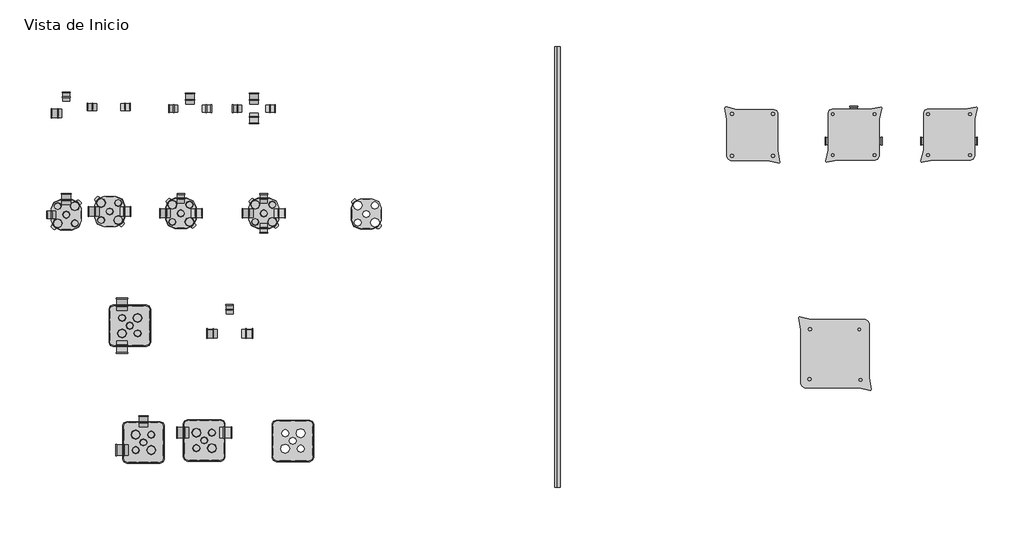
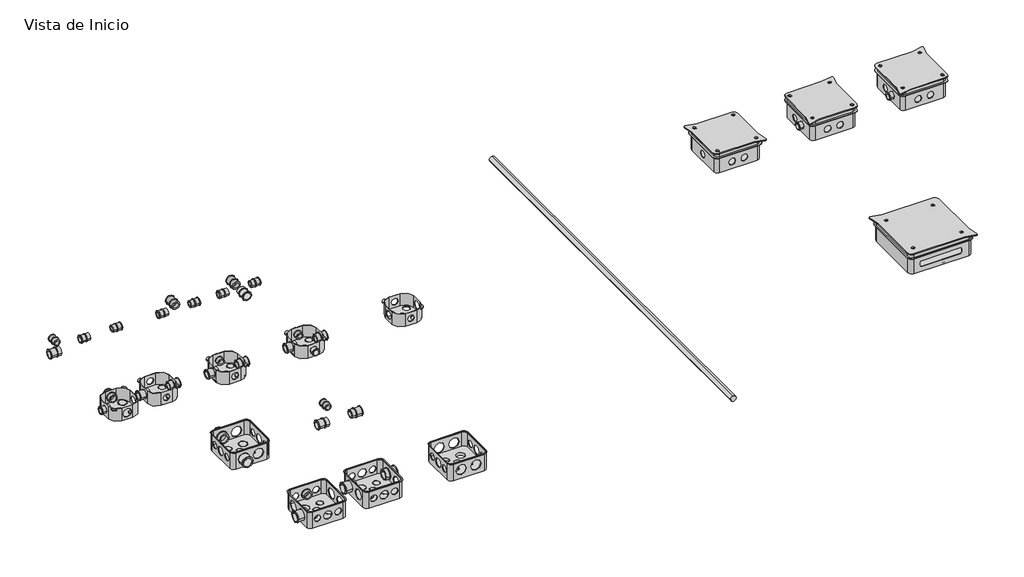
# One storey, incomplete: 49 cable carrier fittings, 1 cable carrier segment.
"""IFC4 building model written with IfcOpenShell, lengths in millimetres."""

from ifc_helpers import new_model, si_unit, point, frame, frame_2d, origin, place, context, project, spatial, circle_curve, trimmed, segment, composite_curve, outline, extrude, transform, mapped, element, save
from components import var_64fc13f4, var_9453f919, var_3e088505, var_25dc7d8c, var_ab9e230f, var_d9d88811, var_9fea2db4, var_a69d591e, var_c12a9b82

model = new_model("IFC4")

# Units and contexts
model_context = context("Model", 3, world=origin())
ifc_project = project(units=[si_unit("LENGTHUNIT", "METRE", prefix="MILLI")], contexts=[model_context])

# Site, building, storey
site = spatial("IfcSite", under=ifc_project)
building = spatial("IfcBuilding", under=site)
storey = spatial("IfcBuildingStorey", under=building, Name="Vista de Inicio", Elevation=0.0)

# Cable carrier fittings
placement = place(None, origin())
var_shape = var_64fc13f4(model_context)
element("IfcCableCarrierFitting", 1, ObjectType="PlastigamaWavin_Unionesdetubo_ConduitZNoUsarConector : Var.", at=placement, inside=storey, context=model_context, shape_type="MappedRepresentation", body=[
    mapped(var_shape, transform((1635.2131716, 3220.6588006, 0.0), x_axis=(0.0, -1.0, 0.0), y_axis=(1.0, 0.0, 0.0), z_axis=(0.0, 0.0, 1.0))),
])
element("IfcCableCarrierFitting", 2, ObjectType="PlastigamaWavin_Unionesdetubo_ConduitZNoUsarConector : Var.", at=placement, inside=storey, context=model_context, shape_type="MappedRepresentation", body=[
    mapped(var_shape, transform((1227.6395782, 3179.4088006, 0.0), x_axis=(1.0, 0.0, 0.0), y_axis=(0.0, 1.0, 0.0), z_axis=(0.0, 0.0, 1.0))),
])
element("IfcCableCarrierFitting", 3, ObjectType="PlastigamaWavin_Unionesdetubo_ConduitZNoUsarConector : Var.", at=placement, inside=storey, context=model_context, shape_type="MappedRepresentation", body=[
    mapped(var_shape, transform((1491.6702869, 2225.2691499, 0.0), x_axis=(0.0, -1.0, 0.0), y_axis=(1.0, 0.0, 0.0), z_axis=(0.0, 0.0, 1.0))),
])
element("IfcCableCarrierFitting", 4, ObjectType="PlastigamaWavin_Unionesdetubo_ConduitZNoUsarConector : Var.", at=placement, inside=storey, context=model_context, shape_type="MappedRepresentation", body=[
    mapped(var_shape, transform((1253.688139, 2911.7351313, 0.0), x_axis=(0.0, -1.0, 0.0), y_axis=(1.0, 0.0, 0.0), z_axis=(0.0, 0.0, 1.0))),
])
element("IfcCableCarrierFitting", 5, ObjectType="PlastigamaWavin_Unionesdetubo_ConduitZNoUsarConector : Var.", at=placement, inside=storey, context=model_context, shape_type="MappedRepresentation", body=[
    mapped(var_shape, transform((1831.9874338, 3220.6588006, 0.0), x_axis=(0.0, -1.0, 0.0), y_axis=(1.0, 0.0, 0.0), z_axis=(0.0, 0.0, 1.0))),
])
element("IfcCableCarrierFitting", 6, ObjectType="PlastigamaWavin_Unionesdetubo_ConduitZNoUsarConector : Var.", at=placement, inside=storey, context=model_context, shape_type="MappedRepresentation", body=[
    mapped(var_shape, transform((1831.9874338, 3168.1588006, 0.0), x_axis=(0.0, 1.0, 0.0), y_axis=(-1.0, 0.0, 0.0), z_axis=(0.0, 0.0, 1.0))),
])
element("IfcCableCarrierFitting", 7, ObjectType="PlastigamaWavin_Unionesdetubo_ConduitZNoUsarConector : Var.", at=placement, inside=storey, context=model_context, shape_type="MappedRepresentation", body=[
    mapped(var_shape, transform((1817.6916975, 2871.1795379, 0.0), x_axis=(1.0, 0.0, 0.0), y_axis=(0.0, 1.0, 0.0), z_axis=(0.0, 0.0, 1.0))),
])
element("IfcCableCarrierFitting", 8, ObjectType="PlastigamaWavin_Unionesdetubo_ConduitZNoUsarConector : Var.", at=placement, inside=storey, context=model_context, shape_type="MappedRepresentation", body=[
    mapped(var_shape, transform((1907.6916975, 2871.1795379, 0.0), x_axis=(-1.0, 0.0, 0.0), y_axis=(0.0, -1.0, 0.0), z_axis=(0.0, 0.0, 1.0))),
])
element("IfcCableCarrierFitting", 9, ObjectType="PlastigamaWavin_Unionesdetubo_ConduitZNoUsarConector : Var.", at=placement, inside=storey, context=model_context, shape_type="MappedRepresentation", body=[
    mapped(var_shape, transform((1432.3669638, 2876.7351313, 0.0), x_axis=(-1.0, 0.0, 0.0), y_axis=(0.0, -1.0, 0.0), z_axis=(0.0, 0.0, 1.0))),
])
element("IfcCableCarrierFitting", 10, ObjectType="PlastigamaWavin_Unionesdetubo_ConduitZNoUsarConector : Var.", at=placement, inside=storey, context=model_context, shape_type="MappedRepresentation", body=[
    mapped(var_shape, transform((1342.3669638, 2876.7351313, 0.0), x_axis=(1.0, 0.0, 0.0), y_axis=(0.0, 1.0, 0.0), z_axis=(0.0, 0.0, 1.0))),
])
element("IfcCableCarrierFitting", 11, ObjectType="PlastigamaWavin_Unionesdetubo_ConduitZNoUsarConector : Var.", at=placement, inside=storey, context=model_context, shape_type="MappedRepresentation", body=[
    mapped(var_shape, transform((1562.120488, 2871.1795379, 0.0), x_axis=(1.0, 0.0, 0.0), y_axis=(0.0, 1.0, 0.0), z_axis=(0.0, 0.0, 1.0))),
])
element("IfcCableCarrierFitting", 12, ObjectType="PlastigamaWavin_Unionesdetubo_ConduitZNoUsarConector : Var.", at=placement, inside=storey, context=model_context, shape_type="MappedRepresentation", body=[
    mapped(var_shape, transform((1652.120488, 2871.1795379, 0.0), x_axis=(-1.0, 0.0, 0.0), y_axis=(0.0, -1.0, 0.0), z_axis=(0.0, 0.0, 1.0))),
])
element("IfcCableCarrierFitting", 13, ObjectType="PlastigamaWavin_Unionesdetubo_ConduitZNoUsarConector : Var.", at=placement, inside=storey, context=model_context, shape_type="MappedRepresentation", body=[
    mapped(var_shape, transform((1706.7788873, 2500.4208887, 0.0), x_axis=(1.0, 0.0, 0.0), y_axis=(0.0, 1.0, 0.0), z_axis=(0.0, 0.0, 1.0))),
])
element("IfcCableCarrierFitting", 14, ObjectType="PlastigamaWavin_Unionesdetubo_ConduitZNoUsarConector : Var.", at=placement, inside=storey, context=model_context, shape_type="MappedRepresentation", body=[
    mapped(var_shape, transform((1807.2788873, 2500.4208887, 0.0), x_axis=(-1.0, 0.0, 0.0), y_axis=(0.0, -1.0, 0.0), z_axis=(0.0, 0.0, 1.0))),
])
var_2_shape = var_9453f919(model_context)
element("IfcCableCarrierFitting", 15, ObjectType="PlastigamaWavin_Unionesdetubo_ConduitZNoUsarConector : Var.", at=placement, inside=storey, context=model_context, shape_type="MappedRepresentation", body=[
    mapped(var_2_shape, transform((1425.6237023, 2464.0478721, 0.0), x_axis=(0.0, 1.0, 0.0), y_axis=(-1.0, 0.0, 0.0), z_axis=(0.0, 0.0, 1.0))),
])
element("IfcCableCarrierFitting", 16, ObjectType="PlastigamaWavin_Unionesdetubo_ConduitZNoUsarConector : Var.", at=placement, inside=storey, context=model_context, shape_type="MappedRepresentation", body=[
    mapped(var_2_shape, transform((1425.6237023, 2585.0478721, 0.0), x_axis=(0.0, -1.0, 0.0), y_axis=(1.0, 0.0, 0.0), z_axis=(0.0, 0.0, 1.0))),
])
element("IfcCableCarrierFitting", 17, ObjectType="PlastigamaWavin_Unionesdetubo_ConduitZNoUsarConector : Var.", at=placement, inside=storey, context=model_context, shape_type="MappedRepresentation", body=[
    mapped(var_2_shape, transform((1618.3692226, 2194.5191499, 0.0), x_axis=(1.0, 0.0, 0.0), y_axis=(0.0, 1.0, 0.0), z_axis=(0.0, 0.0, 1.0))),
])
element("IfcCableCarrierFitting", 18, ObjectType="PlastigamaWavin_Unionesdetubo_ConduitZNoUsarConector : Var.", at=placement, inside=storey, context=model_context, shape_type="MappedRepresentation", body=[
    mapped(var_2_shape, transform((1739.3692226, 2194.5191499, 0.0), x_axis=(-1.0, 0.0, 0.0), y_axis=(0.0, -1.0, 0.0), z_axis=(0.0, 0.0, 1.0))),
])
element("IfcCableCarrierFitting", 19, ObjectType="PlastigamaWavin_Unionesdetubo_ConduitZNoUsarConector : Var.", at=placement, inside=storey, context=model_context, shape_type="MappedRepresentation", body=[
    mapped(var_2_shape, transform((1431.1702869, 2140.6191499, 0.0), x_axis=(1.0, 0.0, 0.0), y_axis=(0.0, 1.0, 0.0), z_axis=(0.0, 0.0, 1.0))),
])
var_3_shape = var_3e088505(model_context)
element("IfcCableCarrierFitting", 20, ObjectType="PlastigamaWavin_Unionesdetubo_ConduitZNoUsarConector : Var.", at=placement, inside=storey, context=model_context, shape_type="MappedRepresentation", body=[
    mapped(var_3_shape, transform((1781.7874338, 3194.4088006, 0.0), x_axis=(1.0, 0.0, 0.0), y_axis=(0.0, 1.0, 0.0), z_axis=(0.0, 0.0, 1.0))),
])
element("IfcCableCarrierFitting", 21, ObjectType="PlastigamaWavin_Unionesdetubo_ConduitZNoUsarConector : Var.", at=placement, inside=storey, context=model_context, shape_type="MappedRepresentation", body=[
    mapped(var_3_shape, transform((1882.1874338, 3194.4088006, 0.0), x_axis=(-1.0, 0.0, 0.0), y_axis=(0.0, -1.0, 0.0), z_axis=(0.0, 0.0, 1.0))),
])
element("IfcCableCarrierFitting", 22, ObjectType="PlastigamaWavin_Unionesdetubo_ConduitZNoUsarConector : Var.", at=placement, inside=storey, context=model_context, shape_type="MappedRepresentation", body=[
    mapped(var_3_shape, transform((1334.5055835, 3199.4088006, 0.0), x_axis=(1.0, 0.0, 0.0), y_axis=(0.0, 1.0, 0.0), z_axis=(0.0, 0.0, 1.0))),
])
element("IfcCableCarrierFitting", 23, ObjectType="PlastigamaWavin_Unionesdetubo_ConduitZNoUsarConector : Var.", at=placement, inside=storey, context=model_context, shape_type="MappedRepresentation", body=[
    mapped(var_3_shape, transform((1434.9055835, 3199.4088006, 0.0), x_axis=(-1.0, 0.0, 0.0), y_axis=(0.0, -1.0, 0.0), z_axis=(0.0, 0.0, 1.0))),
])
element("IfcCableCarrierFitting", 24, ObjectType="PlastigamaWavin_Unionesdetubo_ConduitZNoUsarConector : Var.", at=placement, inside=storey, context=model_context, shape_type="MappedRepresentation", body=[
    mapped(var_3_shape, transform((1585.0131716, 3194.4088006, 0.0), x_axis=(1.0, 0.0, 0.0), y_axis=(0.0, 1.0, 0.0), z_axis=(0.0, 0.0, 1.0))),
])
element("IfcCableCarrierFitting", 25, ObjectType="PlastigamaWavin_Unionesdetubo_ConduitZNoUsarConector : Var.", at=placement, inside=storey, context=model_context, shape_type="MappedRepresentation", body=[
    mapped(var_3_shape, transform((1685.4131716, 3194.4088006, 0.0), x_axis=(-1.0, 0.0, 0.0), y_axis=(0.0, -1.0, 0.0), z_axis=(0.0, 0.0, 1.0))),
])
element("IfcCableCarrierFitting", 26, ObjectType="PlastigamaWavin_Unionesdetubo_ConduitZNoUsarConector : Var.", at=placement, inside=storey, context=model_context, shape_type="MappedRepresentation", body=[
    mapped(var_3_shape, transform((1862.6916975, 2826.4795379, 0.0), x_axis=(0.0, 1.0, 0.0), y_axis=(-1.0, 0.0, 0.0), z_axis=(0.0, 0.0, 1.0))),
])
element("IfcCableCarrierFitting", 27, ObjectType="PlastigamaWavin_Unionesdetubo_ConduitZNoUsarConector : Var.", at=placement, inside=storey, context=model_context, shape_type="MappedRepresentation", body=[
    mapped(var_3_shape, transform((1862.6916975, 2915.8795379, 0.0), x_axis=(0.0, -1.0, 0.0), y_axis=(1.0, 0.0, 0.0), z_axis=(0.0, 0.0, 1.0))),
])
element("IfcCableCarrierFitting", 28, ObjectType="PlastigamaWavin_Unionesdetubo_ConduitZNoUsarConector : Var.", at=placement, inside=storey, context=model_context, shape_type="MappedRepresentation", body=[
    mapped(var_3_shape, transform((1607.120488, 2915.8795379, 0.0), x_axis=(0.0, -1.0, 0.0), y_axis=(1.0, 0.0, 0.0), z_axis=(0.0, 0.0, 1.0))),
])
element("IfcCableCarrierFitting", 29, ObjectType="PlastigamaWavin_Unionesdetubo_ConduitZNoUsarConector : Var.", at=placement, inside=storey, context=model_context, shape_type="MappedRepresentation", body=[
    mapped(var_3_shape, transform((1757.0288873, 2573.3708887, 0.0), x_axis=(0.0, -1.0, 0.0), y_axis=(1.0, 0.0, 0.0), z_axis=(0.0, 0.0, 1.0))),
])
element("IfcCableCarrierFitting", 30, ObjectType="PlastigamaWavin_Unionesdetubo_ConduitZNoUsarConector : Var.", at=placement, inside=storey, context=model_context, shape_type="MappedRepresentation", body=[
    mapped(var_3_shape, transform((3609.3427025, 3094.1312499, 0.0), x_axis=(1.0, 0.0, 0.0), y_axis=(0.0, 1.0, 0.0), z_axis=(0.0, 0.0, 1.0))),
])
element("IfcCableCarrierFitting", 31, ObjectType="PlastigamaWavin_Unionesdetubo_ConduitZNoUsarConector : Var.", at=placement, inside=storey, context=model_context, shape_type="MappedRepresentation", body=[
    mapped(var_3_shape, transform((3680.7927025, 3185.5812499, 0.0), x_axis=(0.0, -1.0, 0.0), y_axis=(1.0, 0.0, 0.0), z_axis=(0.0, 0.0, 1.0))),
])
element("IfcCableCarrierFitting", 32, ObjectType="PlastigamaWavin_Unionesdetubo_ConduitZNoUsarConector : Var.", at=placement, inside=storey, context=model_context, shape_type="MappedRepresentation", body=[
    mapped(var_3_shape, transform((3752.2427025, 3094.1312499, 0.0), x_axis=(-1.0, 0.0, 0.0), y_axis=(0.0, -1.0, 0.0), z_axis=(0.0, 0.0, 1.0))),
])
element("IfcCableCarrierFitting", 33, ObjectType="PlastigamaWavin_Unionesdetubo_ConduitZNoUsarConector : Var.", at=placement, inside=storey, context=model_context, shape_type="MappedRepresentation", body=[
    mapped(var_3_shape, transform((3903.4173954, 3094.1312499, 0.0), x_axis=(1.0, 0.0, 0.0), y_axis=(0.0, 1.0, 0.0), z_axis=(0.0, 0.0, 1.0))),
])
element("IfcCableCarrierFitting", 34, ObjectType="PlastigamaWavin_Unionesdetubo_ConduitZNoUsarConector : Var.", at=placement, inside=storey, context=model_context, shape_type="MappedRepresentation", body=[
    mapped(var_3_shape, transform((4046.3173954, 3094.1312499, 0.0), x_axis=(-1.0, 0.0, 0.0), y_axis=(0.0, -1.0, 0.0), z_axis=(0.0, 0.0, 1.0))),
])
element("IfcCableCarrierFitting", 35, ObjectType="PlastigamaWavin_Unionesdetubo_ConduitZNoUsarConector : Var.", at=placement, inside=storey, context=model_context, shape_type="MappedRepresentation", body=[
    mapped(var_3_shape, transform((1253.8895782, 3229.6088006, 0.0), x_axis=(0.0, -1.0, 0.0), y_axis=(1.0, 0.0, 0.0), z_axis=(0.0, 0.0, 1.0))),
])
element("IfcCableCarrierFitting", 36, ObjectType="PlastigamaWavin_Unionesdetubo_ConduitZNoUsarConector : Var.", at=placement, inside=storey, context=model_context, shape_type="MappedRepresentation", body=[
    mapped(var_3_shape, transform((1208.988139, 2866.7351313, 0.0), x_axis=(1.0, 0.0, 0.0), y_axis=(0.0, 1.0, 0.0), z_axis=(0.0, 0.0, 1.0))),
])
var_4_shape = var_25dc7d8c(model_context)
element("IfcCableCarrierFitting", 37, ObjectType="PlastigamaWavin_Unionesdetubo_ConduitZNoUsarCajaOctogonal : Var.", at=placement, inside=storey, context=model_context, shape_type="MappedRepresentation", body=[
    mapped(var_4_shape, transform((1387.3669638, 2876.7351313, 0.0), x_axis=(1.0, 0.0, 0.0), y_axis=(0.0, 1.0, 0.0), z_axis=(0.0, 0.0, 1.0))),
])
element("IfcCableCarrierFitting", 38, ObjectType="PlastigamaWavin_Unionesdetubo_ConduitZNoUsarCajaOctogonal : Var.", at=placement, inside=storey, context=model_context, shape_type="MappedRepresentation", body=[
    mapped(var_4_shape, transform((1607.120488, 2871.1795379, 0.0), x_axis=(1.0, 0.0, 0.0), y_axis=(0.0, 1.0, 0.0), z_axis=(0.0, 0.0, 1.0))),
])
element("IfcCableCarrierFitting", 39, ObjectType="PlastigamaWavin_Unionesdetubo_ConduitZNoUsarCajaOctogonal : Var.", at=placement, inside=storey, context=model_context, shape_type="MappedRepresentation", body=[
    mapped(var_4_shape, transform((1862.6916975, 2871.1795379, 0.0), x_axis=(1.0, 0.0, 0.0), y_axis=(0.0, 1.0, 0.0), z_axis=(0.0, 0.0, 1.0))),
])
element("IfcCableCarrierFitting", 40, ObjectType="PlastigamaWavin_Unionesdetubo_ConduitZNoUsarCajaOctogonal : Var.", at=placement, inside=storey, context=model_context, shape_type="MappedRepresentation", body=[
    mapped(var_4_shape, transform((1253.688139, 2866.7351313, 0.0), x_axis=(0.0, 1.0, 0.0), y_axis=(-1.0, 0.0, 0.0), z_axis=(0.0, 0.0, 1.0))),
])
var_5_shape = var_ab9e230f(model_context)
element("IfcCableCarrierFitting", 41, ObjectType="PlastigamaWavin_Unionesdetubo_ConduitZNoUsarCaja15x15 : Var.", at=placement, inside=storey, context=model_context, shape_type="MappedRepresentation", body=[
    mapped(var_5_shape, transform((3974.8673954, 3114.1312499, 2.25), x_axis=(0.0, -1.0, 0.0), y_axis=(1.0, 0.0, 0.0), z_axis=(0.0, 0.0, 1.0))),
])
element("IfcCableCarrierFitting", 42, ObjectType="PlastigamaWavin_Unionesdetubo_ConduitZNoUsarCaja15x15 : Var.", at=placement, inside=storey, context=model_context, shape_type="MappedRepresentation", body=[
    mapped(var_5_shape, transform((3680.7927025, 3114.1312499, 2.25), x_axis=(0.0, -1.0, 0.0), y_axis=(1.0, 0.0, 0.0), z_axis=(0.0, 0.0, 1.0))),
])
var_6_shape = var_d9d88811(model_context)
element("IfcCableCarrierFitting", 43, ObjectType="PlastigamaWavin_Unionesdetubo_ConduitZNoUsarCaja5x5 : Var.", at=placement, inside=storey, context=model_context, shape_type="MappedRepresentation", body=[
    mapped(var_6_shape, transform((1678.8692226, 2170.6191499, 0.0), x_axis=(0.0, 1.0, 0.0), y_axis=(-1.0, 0.0, 0.0), z_axis=(0.0, 0.0, 1.0))),
])
element("IfcCableCarrierFitting", 44, ObjectType="PlastigamaWavin_Unionesdetubo_ConduitZNoUsarCaja5x5 : Var.", at=placement, inside=storey, context=model_context, shape_type="MappedRepresentation", body=[
    mapped(var_6_shape, transform((1449.5237023, 2524.5478721, 0.0), x_axis=(-1.0, 0.0, 0.0), y_axis=(0.0, -1.0, 0.0), z_axis=(0.0, 0.0, 1.0))),
])
element("IfcCableCarrierFitting", 45, ObjectType="PlastigamaWavin_Unionesdetubo_ConduitZNoUsarCaja5x5 : Var.", at=placement, inside=storey, context=model_context, shape_type="MappedRepresentation", body=[
    mapped(var_6_shape, transform((1491.6702869, 2164.5191499, 0.0), x_axis=(0.0, 1.0, 0.0), y_axis=(-1.0, 0.0, 0.0), z_axis=(0.0, 0.0, 1.0))),
])
var_7_shape = var_9fea2db4(model_context)
element("IfcCableCarrierFitting", 46, ObjectType="PlastigamaWavin_Unionesdetubo_ConduitCaja20x20 : Var.", at=placement, inside=storey, context=model_context, shape_type="MappedRepresentation", body=[
    mapped(var_7_shape, transform((3623.2308462, 2438.0832512, 0.0), x_axis=(1.0, 0.0, 0.0), y_axis=(0.0, 1.0, 0.0), z_axis=(0.0, 0.0, 1.0))),
])
var_8_shape = var_a69d591e(model_context)
element("IfcCableCarrierFitting", 47, ObjectType="PlastigamaWavin_Unionesdetubo_ConduitCajaOctogonal : Var.", at=placement, inside=storey, context=model_context, shape_type="MappedRepresentation", body=[
    mapped(var_8_shape, transform((2178.7490077, 2869.295735, 0.0), x_axis=(1.0, 0.0, 0.0), y_axis=(0.0, 1.0, 0.0), z_axis=(0.0, 0.0, 1.0))),
])
var_9_shape = var_c12a9b82(model_context)
element("IfcCableCarrierFitting", 48, ObjectType="PlastigamaWavin_Unionesdetubo_ConduitCajaCuadrada5x5 : Var.", at=placement, inside=storey, context=model_context, shape_type="MappedRepresentation", body=[
    mapped(var_9_shape, transform((1952.2245217, 2169.0658523, 0.0), x_axis=(1.0, 0.0, 0.0), y_axis=(0.0, 1.0, 0.0), z_axis=(0.0, 0.0, 1.0))),
])
element("IfcCableCarrierFitting", 49, ObjectType="PlastigamaWavin_Unionesdetubo_ConduitCaja15x15 : Var.", at=placement, inside=storey, context=model_context, shape_type="MappedRepresentation", body=[
    mapped(var_5_shape, transform((3368.7168192, 3113.1049409, 0.0), x_axis=(1.0, 0.0, 0.0), y_axis=(0.0, 1.0, 0.0), z_axis=(0.0, 0.0, 1.0))),
])

# Cable carrier segment
element("IfcCableCarrierSegment", 50, ObjectType="Plastigama Conduit", at=placement, inside=storey, context=model_context, shape_type="SweptSolid", body=[
    extrude(outline(composite_curve([segment(trimmed(circle_curve(frame_2d((0.0, 2767.7341873)), 8.99), [point((0.0, 2776.7241873))], [point((8.99, 2767.7341873))], False, "CARTESIAN"), True, "CONTINUOUS"), segment(trimmed(circle_curve(frame_2d((0.0, 2767.7341873)), 8.99), [point((8.99, 2767.7341873))], [point((0.0, 2758.7441873))], False, "CARTESIAN"), True, "CONTINUOUS"), segment(trimmed(circle_curve(frame_2d((0.0, 2767.7341873)), 8.99), [point((0.0, 2758.7441873))], [point((-8.99, 2767.7341873))], False, "CARTESIAN"), True, "CONTINUOUS"), segment(trimmed(circle_curve(frame_2d((0.0, 2767.7341873)), 8.99), [point((-8.99, 2767.7341873))], [point((0.0, 2776.7241873))], False, "CARTESIAN"), True, "CONTINUOUS")], self_intersect=False)), frame((0.0, 2025.8847078, 0.0), z_axis=(0.0, 1.0, 0.0), x_axis=(0.0, 0.0, 1.0)), (0.0, 0.0, 1.0), 1360.0),
])

save(model, "model.ifc")
